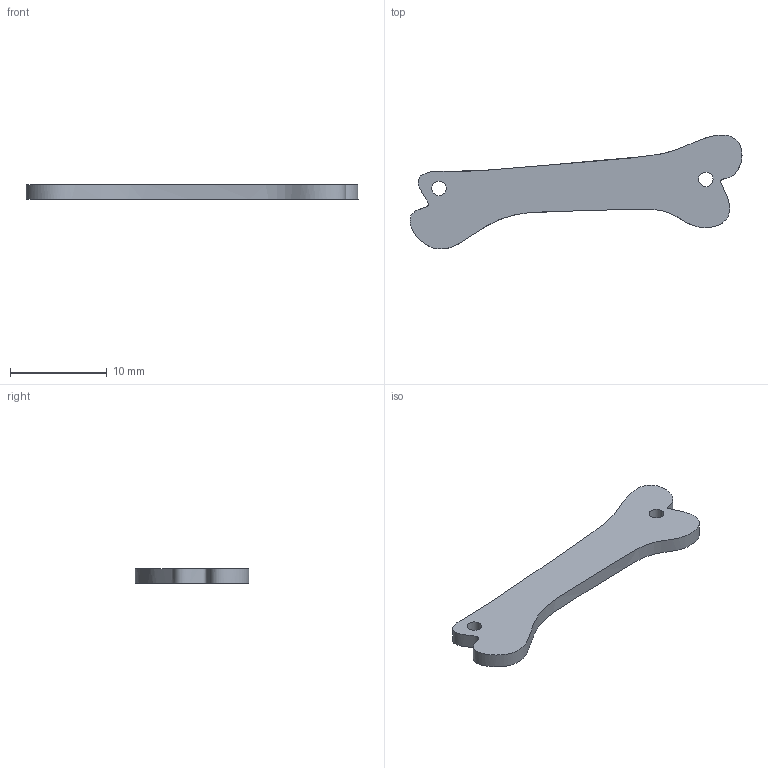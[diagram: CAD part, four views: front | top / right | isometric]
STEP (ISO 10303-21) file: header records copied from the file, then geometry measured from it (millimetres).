
FILE_DESCRIPTION(/* description */ ('','CAx-IF Rec.Pracs.---Representation and Presentation of Product Manufacturing Information (PMI)---4.0---2014-10-13'),/* implementation_level */ '2;1');
FILE_NAME(/* name */ 'Skelette_Oberschenkel.step',/* time_stamp */ '2025-01-30T08:48:44+01:00',/* author */ (''),/* organization */ (''),/* preprocessor_version */ 'ST-DEVELOPER v20',/* originating_system */ 'Autodesk Translation Framework v13.20.0.188',/* authorisation */ '');
FILE_SCHEMA (('AP242_MANAGED_MODEL_BASED_3D_ENGINEERING_MIM_LF { 1 0 10303 442 1 1 4 }'));
Length unit declared in the file: millimetre
Products named in the file (1): 01_Skelette_Oberschenkel
Bounding box: 34.27 x 11.76 x 1.5 mm (x, y, z)
Volume: 365.9 mm3; surface area: 539.1 mm2
Topology: 1 solids, 1 shells, 5 faces, 9 edges, 6 vertices
Faces by surface type: cylinder 2, plane 2, bspline 1
Full cylindrical faces by diameter (mm): 1.5 x2
Entity records: 515 total; most frequent: CARTESIAN_POINT 378, DIRECTION 21, ORIENTED_EDGE 18, EDGE_LOOP 9, EDGE_CURVE 9, AXIS2_PLACEMENT_3D 9, VERTEX_POINT 6, FACE_OUTER_BOUND 5
